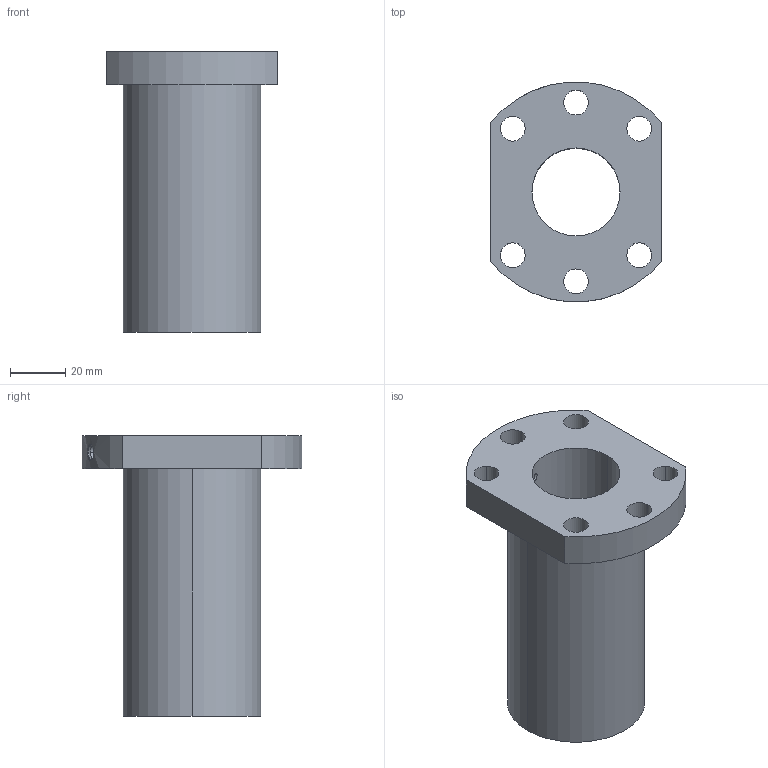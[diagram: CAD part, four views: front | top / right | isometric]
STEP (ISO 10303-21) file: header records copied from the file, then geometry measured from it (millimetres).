
FILE_DESCRIPTION(('STEP AP214'),'1');
FILE_NAME('cgr325dfud3_175102-.stp','2025-04-30T14:49:11',('TraceParts'),('TraceParts S.A.'),'Spatial InterOp 3D',' ',' ');
FILE_SCHEMA(('AUTOMOTIVE_DESIGN { 1 0 10303 214 1 1 1 1 }'));
Length unit declared in the file: millimetre
Products named in the file (1): cgr325dfud3_175102-
Bounding box: 62 x 79.74 x 102 mm (x, y, z)
Volume: 142684.6 mm3; surface area: 36046.1 mm2
Topology: 1 solids, 1 shells, 38 faces, 92 edges, 58 vertices
Faces by surface type: cylinder 26, cone 6, plane 6
Entity records: 1586 total; most frequent: CARTESIAN_POINT 305, DIRECTION 216, ORIENTED_EDGE 184, EDGE_CURVE 92, AXIS2_PLACEMENT_3D 89, VERTEX_POINT 58, EDGE_LOOP 56, CIRCLE 50
